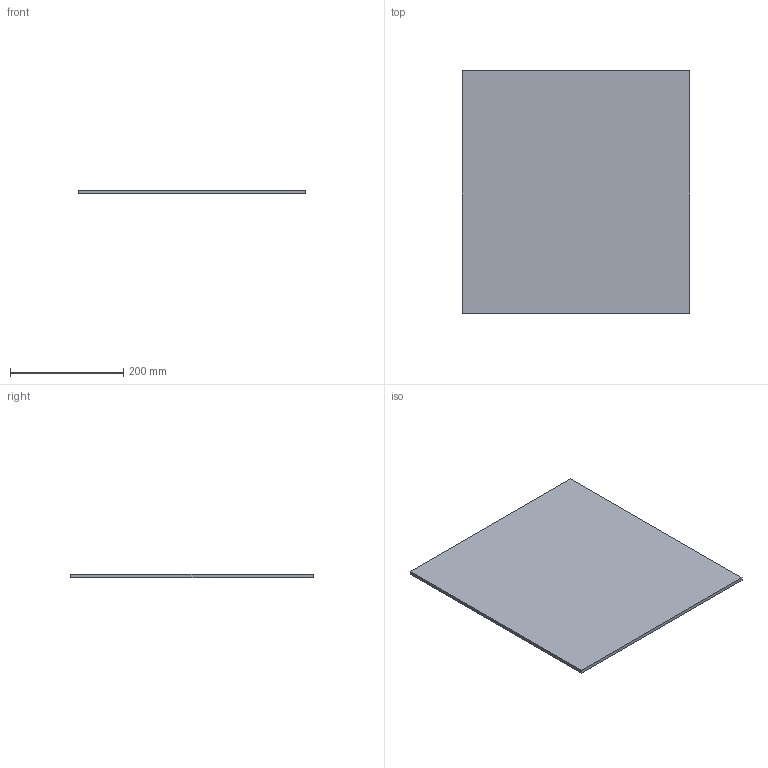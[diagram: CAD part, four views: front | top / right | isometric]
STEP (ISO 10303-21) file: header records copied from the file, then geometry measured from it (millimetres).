
FILE_DESCRIPTION (( 'STEP AP214' ), '1' );
FILE_NAME ('Lochblech_NL450_KAB500_19.step', '2010-10-11T13:38:29', ( 'grass' ), ( '' ), 'SwSTEP 2.0', 'SolidWorks 2010', '' );
FILE_SCHEMA (( 'AUTOMOTIVE_DESIGN' ));
Length unit declared in the file: millimetre
Products named in the file (1): Lochblech_NL450_KAB500_19
Bounding box: 402 x 429 x 6 mm (x, y, z)
Volume: 1034748 mm3; surface area: 354888 mm2
Topology: 1 solids, 1 shells, 6 faces, 12 edges, 8 vertices
Faces by surface type: plane 6
Entity records: 190 total; most frequent: CARTESIAN_POINT 27, DIRECTION 26, ORIENTED_EDGE 24, EDGE_CURVE 12, LINE 12, VECTOR 12, VERTEX_POINT 8, AXIS2_PLACEMENT_3D 7
